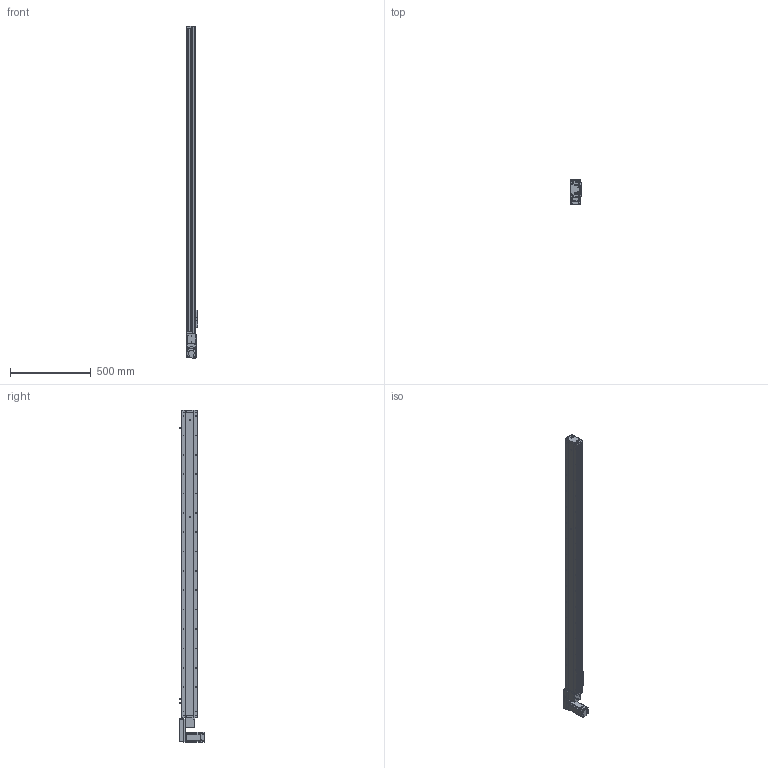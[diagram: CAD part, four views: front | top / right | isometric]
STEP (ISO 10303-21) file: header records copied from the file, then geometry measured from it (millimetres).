
FILE_DESCRIPTION (( 'STEP AP214' ), '1' );
FILE_NAME ('KSD100B-S1700-MLB-CR.STEP', '2019-09-06T09:17:17', ( '微软用户' ), ( '微软中国' ), 'SwSTEP 2.0', 'SolidWorks 2014', '' );
FILE_SCHEMA (( 'AUTOMOTIVE_DESIGN' ));
Length unit declared in the file: millimetre
Products named in the file (15): 100宽侧板1700行程同步带; 悵誘欶奻狟殏; 100宽底板全封闭1700行程同步带; KSD100B-S1700-MLB-CR; MHMD042G1CA_2_03; 100宽马达安装板连板上下折丝杆同步带; 感应片100宽全封闭; U倰嫖萇EEㄜSX672; 100宽马达安装板同步带左; 100遵鎮湛假蚾啣蜊; 100宽端板同步带全封闭; 100宽滚珠螺姆安装板1防护罩; 100宽滚珠螺姆安装板1; 100遵裔啣揤啣; 100遵裔啣1700俴最
Assembly tree (18 placements, depth 2):
  KSD100B-S1700-MLB-CR
    100宽底板全封闭1700行程同步带
    100宽侧板1700行程同步带  x2
    100遵裔啣1700俴最
    100遵裔啣揤啣  x2
    100宽滚珠螺姆安装板1
    100宽滚珠螺姆安装板1防护罩
    100宽端板同步带全封闭
    100遵鎮湛假蚾啣蜊
    100宽马达安装板同步带左
    U倰嫖萇EEㄜSX672  x3
    感应片100宽全封闭
    100宽马达安装板连板上下折丝杆同步带
    悵誘欶奻狟殏
    MHMD042G1CA_2_03
Bounding box: 70 x 156.2 x 2057 mm (x, y, z)
Volume: 3750789.4 mm3; surface area: 1634413.2 mm2
Topology: 17 solids, 18 shells, 2009 faces, 5624 edges, 3545 vertices
Faces by surface type: cylinder 921, plane 741, cone 327, bspline 20
Entity records: 71520 total; most frequent: CARTESIAN_POINT 11126, DIRECTION 9806, ORIENTED_EDGE 8988, EDGE_CURVE 4566, AXIS2_PLACEMENT_3D 3595, VERTEX_POINT 3023, VECTOR 2616, LINE 2616
